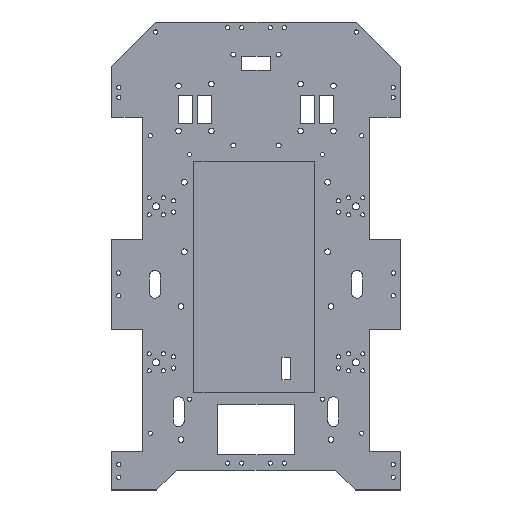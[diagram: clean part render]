
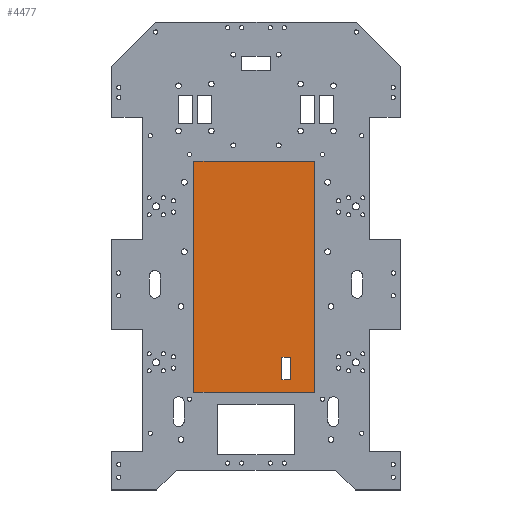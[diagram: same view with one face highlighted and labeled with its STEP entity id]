
A CAD part, top view. The second image highlights one B-rep face of the part: STEP entity #4477.
In plain terms, the highlighted planar face has unit normal (0, 0, 1).
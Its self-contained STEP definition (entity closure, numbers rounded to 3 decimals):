
#65 = DIRECTION ( 'NONE',  ( 0., 1., 0. ) ) ;
#235 = ORIENTED_EDGE ( 'NONE', *, *, #3898, .F. ) ;
#286 = EDGE_CURVE ( 'NONE', #5734, #6771, #990, .T. ) ;
#390 = CARTESIAN_POINT ( 'NONE',  ( 41.25, -76.25, -37. ) ) ;
#647 = VECTOR ( 'NONE', #4564, 1000. ) ;
#866 = VERTEX_POINT ( 'NONE', #1905 ) ;
#951 = CARTESIAN_POINT ( 'NONE',  ( 0., -76.25, -37. ) ) ;
#984 = FACE_OUTER_BOUND ( 'NONE', #2007, .T. ) ;
#990 = LINE ( 'NONE', #951, #7618 ) ;
#1023 = VECTOR ( 'NONE', #4646, 1000. ) ;
#1541 = CARTESIAN_POINT ( 'NONE',  ( 18.25, -67.25, -37. ) ) ;
#1627 = VECTOR ( 'NONE', #5368, 1000. ) ;
#1645 = FACE_BOUND ( 'NONE', #7290, .T. ) ;
#1803 = ORIENTED_EDGE ( 'NONE', *, *, #8267, .T. ) ;
#1826 = CARTESIAN_POINT ( 'NONE',  ( 24.25, -67.25, -37. ) ) ;
#1905 = CARTESIAN_POINT ( 'NONE',  ( 24.25, -51.25, -37. ) ) ;
#2007 = EDGE_LOOP ( 'NONE', ( #8272, #1803, #235, #2101 ) ) ;
#2046 = EDGE_CURVE ( 'NONE', #5359, #866, #3387, .T. ) ;
#2091 = CARTESIAN_POINT ( 'NONE',  ( -43.75, 0., -37. ) ) ;
#2101 = ORIENTED_EDGE ( 'NONE', *, *, #4421, .F. ) ;
#2188 = ORIENTED_EDGE ( 'NONE', *, *, #2046, .T. ) ;
#2309 = AXIS2_PLACEMENT_3D ( 'NONE', #5670, #8331, #2409 ) ;
#2387 = VERTEX_POINT ( 'NONE', #4069 ) ;
#2409 = DIRECTION ( 'NONE',  ( 1., 0., 0. ) ) ;
#2827 = EDGE_CURVE ( 'NONE', #866, #6215, #6641, .T. ) ;
#2845 = CARTESIAN_POINT ( 'NONE',  ( 24.25, -67.25, -37. ) ) ;
#2883 = LINE ( 'NONE', #1541, #5982 ) ;
#3188 = ORIENTED_EDGE ( 'NONE', *, *, #5051, .T. ) ;
#3387 = LINE ( 'NONE', #7446, #8271 ) ;
#3483 = VERTEX_POINT ( 'NONE', #7417 ) ;
#3648 = EDGE_CURVE ( 'NONE', #2387, #5359, #4797, .T. ) ;
#3898 = EDGE_CURVE ( 'NONE', #3483, #6538, #8057, .T. ) ;
#4069 = CARTESIAN_POINT ( 'NONE',  ( 18.25, -67.25, -37. ) ) ;
#4421 = EDGE_CURVE ( 'NONE', #5734, #3483, #8155, .T. ) ;
#4477 = ADVANCED_FACE ( 'NONE', ( #1645, #984 ), #5624, .T. ) ;
#4564 = DIRECTION ( 'NONE',  ( 0., -1., 0. ) ) ;
#4646 = DIRECTION ( 'NONE',  ( 1., 0., 0. ) ) ;
#4649 = CARTESIAN_POINT ( 'NONE',  ( -43.75, -76.25, -37. ) ) ;
#4667 = CARTESIAN_POINT ( 'NONE',  ( 18.25, -51.25, -37. ) ) ;
#4797 = LINE ( 'NONE', #5510, #7179 ) ;
#4994 = DIRECTION ( 'NONE',  ( 1., 0., 0. ) ) ;
#5051 = EDGE_CURVE ( 'NONE', #6215, #2387, #2883, .T. ) ;
#5359 = VERTEX_POINT ( 'NONE', #4667 ) ;
#5368 = DIRECTION ( 'NONE',  ( 0., 1., 0. ) ) ;
#5409 = CARTESIAN_POINT ( 'NONE',  ( 41.25, 0., -37. ) ) ;
#5510 = CARTESIAN_POINT ( 'NONE',  ( 18.25, -51.25, -37. ) ) ;
#5624 = PLANE ( 'NONE',  #2309 ) ;
#5670 = CARTESIAN_POINT ( 'NONE',  ( 0., 0., -37. ) ) ;
#5734 = VERTEX_POINT ( 'NONE', #4649 ) ;
#5982 = VECTOR ( 'NONE', #6263, 1000. ) ;
#6091 = ORIENTED_EDGE ( 'NONE', *, *, #3648, .T. ) ;
#6215 = VERTEX_POINT ( 'NONE', #2845 ) ;
#6236 = DIRECTION ( 'NONE',  ( 0., 1., 0. ) ) ;
#6263 = DIRECTION ( 'NONE',  ( -1., 0., 0. ) ) ;
#6441 = ORIENTED_EDGE ( 'NONE', *, *, #2827, .T. ) ;
#6522 = CARTESIAN_POINT ( 'NONE',  ( 0., 86.75, -37. ) ) ;
#6538 = VERTEX_POINT ( 'NONE', #7091 ) ;
#6641 = LINE ( 'NONE', #1826, #647 ) ;
#6771 = VERTEX_POINT ( 'NONE', #390 ) ;
#7091 = CARTESIAN_POINT ( 'NONE',  ( 41.25, 86.75, -37. ) ) ;
#7179 = VECTOR ( 'NONE', #65, 1000. ) ;
#7290 = EDGE_LOOP ( 'NONE', ( #6441, #3188, #6091, #2188 ) ) ;
#7417 = CARTESIAN_POINT ( 'NONE',  ( -43.75, 86.75, -37. ) ) ;
#7446 = CARTESIAN_POINT ( 'NONE',  ( 24.25, -51.25, -37. ) ) ;
#7618 = VECTOR ( 'NONE', #7755, 1000. ) ;
#7755 = DIRECTION ( 'NONE',  ( 1., 0., 0. ) ) ;
#7984 = LINE ( 'NONE', #5409, #1627 ) ;
#8057 = LINE ( 'NONE', #6522, #1023 ) ;
#8101 = VECTOR ( 'NONE', #6236, 1000. ) ;
#8155 = LINE ( 'NONE', #2091, #8101 ) ;
#8267 = EDGE_CURVE ( 'NONE', #6771, #6538, #7984, .T. ) ;
#8271 = VECTOR ( 'NONE', #4994, 1000. ) ;
#8272 = ORIENTED_EDGE ( 'NONE', *, *, #286, .T. ) ;
#8331 = DIRECTION ( 'NONE',  ( 0., 0., 1. ) ) ;
